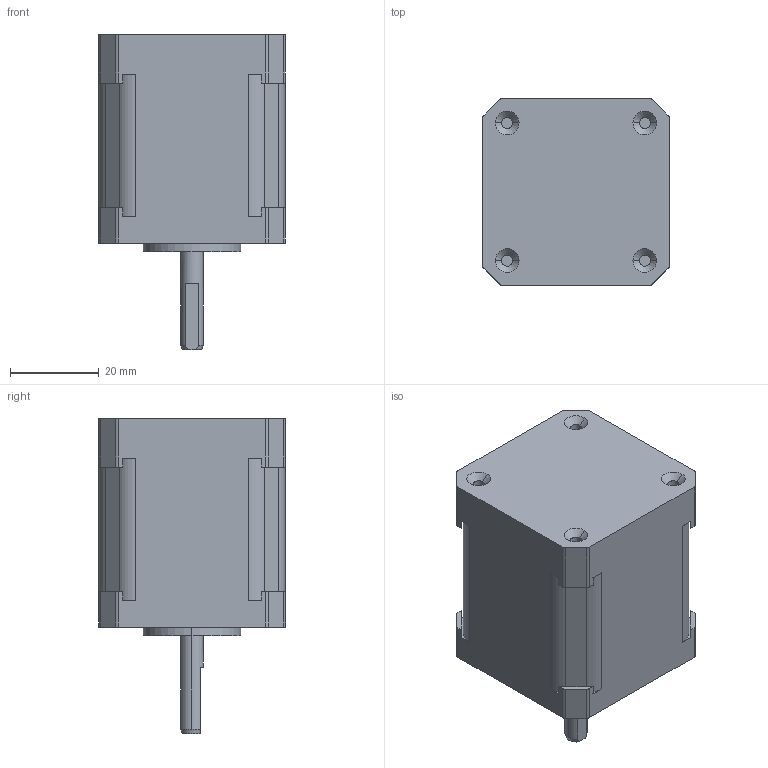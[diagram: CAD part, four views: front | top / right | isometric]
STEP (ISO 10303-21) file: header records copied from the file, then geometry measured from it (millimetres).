
FILE_DESCRIPTION((''),'2;1');
FILE_NAME('QL42HD47-01A','2021-09-04T16:05:44',('qingl'),(''),'CREO PARAMETRIC BY PTC INC, 2019224','CREO PARAMETRIC BY PTC INC, 2019224','');
FILE_SCHEMA(('AUTOMOTIVE_DESIGN { 1 0 10303 214 1 1 1 1 }'));
Length unit declared in the file: millimetre
Products named in the file (1): QL42HD47-01A
Bounding box: 42 x 42 x 71 mm (x, y, z)
Volume: 80570.8 mm3; surface area: 12342.6 mm2
Topology: 1 solids, 1 shells, 298 faces, 835 edges, 552 vertices
Faces by surface type: cylinder 212, plane 69, cone 9, bspline 8
Entity records: 16588 total; most frequent: CARTESIAN_POINT 8282, ORIENTED_EDGE 1670, DIRECTION 1190, EDGE_CURVE 835, VERTEX_POINT 552, AXIS2_PLACEMENT_3D 407, VECTOR 376, LINE 376
